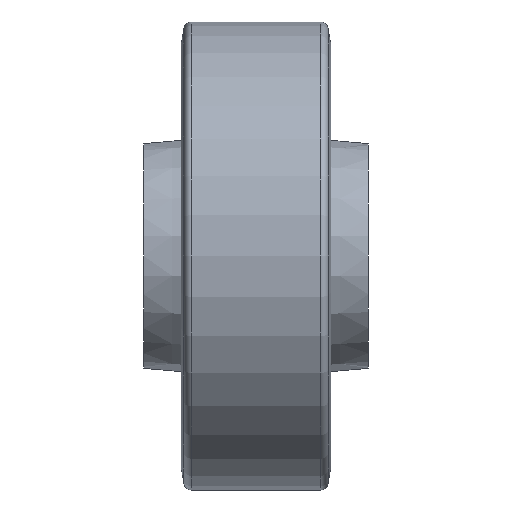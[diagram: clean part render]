
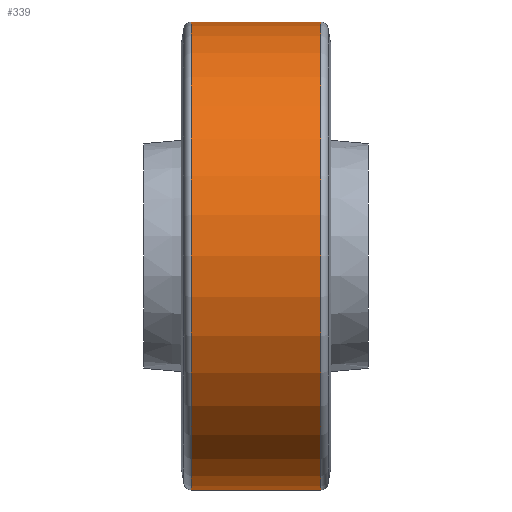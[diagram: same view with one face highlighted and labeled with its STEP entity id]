
A CAD part, front view. The second image highlights one B-rep face of the part: STEP entity #339.
In plain terms, the highlighted cylindrical face has radius 62.5 mm (diameter 125 mm), a partial arc.
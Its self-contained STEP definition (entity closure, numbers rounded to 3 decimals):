
#1 = AXIS2_PLACEMENT_3D ( 'NONE', #429, #914, #1027 ) ;
#23 = CIRCLE ( 'NONE', #101, 62.5 ) ;
#64 = VERTEX_POINT ( 'NONE', #1018 ) ;
#70 = ORIENTED_EDGE ( 'NONE', *, *, #488, .F. ) ;
#101 = AXIS2_PLACEMENT_3D ( 'NONE', #204, #677, #1263 ) ;
#186 = DIRECTION ( 'NONE',  ( -1., 0., 0. ) ) ;
#204 = CARTESIAN_POINT ( 'NONE',  ( -17.264, 0., 0. ) ) ;
#227 = CARTESIAN_POINT ( 'NONE',  ( -17.264, 0., 62.5 ) ) ;
#235 = VERTEX_POINT ( 'NONE', #227 ) ;
#247 = DIRECTION ( 'NONE',  ( 0., 0., 1. ) ) ;
#278 = FACE_OUTER_BOUND ( 'NONE', #385, .T. ) ;
#286 = LINE ( 'NONE', #640, #462 ) ;
#339 = ADVANCED_FACE ( 'NONE', ( #278 ), #737, .T. ) ;
#363 = VERTEX_POINT ( 'NONE', #890 ) ;
#382 = CARTESIAN_POINT ( 'NONE',  ( 0., 0., 62.5 ) ) ;
#385 = EDGE_LOOP ( 'NONE', ( #70, #1092, #829, #751 ) ) ;
#396 = AXIS2_PLACEMENT_3D ( 'NONE', #1436, #1293, #247 ) ;
#429 = CARTESIAN_POINT ( 'NONE',  ( 17.264, 0., 0. ) ) ;
#462 = VECTOR ( 'NONE', #186, 1000. ) ;
#485 = EDGE_CURVE ( 'NONE', #363, #235, #749, .T. ) ;
#488 = EDGE_CURVE ( 'NONE', #1081, #64, #286, .T. ) ;
#640 = CARTESIAN_POINT ( 'NONE',  ( 0., 0., -62.5 ) ) ;
#677 = DIRECTION ( 'NONE',  ( -1., 0., 0. ) ) ;
#737 = CYLINDRICAL_SURFACE ( 'NONE', #396, 62.5 ) ;
#749 = LINE ( 'NONE', #382, #1429 ) ;
#751 = ORIENTED_EDGE ( 'NONE', *, *, #1144, .F. ) ;
#814 = CIRCLE ( 'NONE', #1, 62.5 ) ;
#827 = CARTESIAN_POINT ( 'NONE',  ( 17.264, 0., -62.5 ) ) ;
#829 = ORIENTED_EDGE ( 'NONE', *, *, #485, .T. ) ;
#890 = CARTESIAN_POINT ( 'NONE',  ( 17.264, 0., 62.5 ) ) ;
#914 = DIRECTION ( 'NONE',  ( -1., 0., 0. ) ) ;
#1018 = CARTESIAN_POINT ( 'NONE',  ( -17.264, 0., -62.5 ) ) ;
#1027 = DIRECTION ( 'NONE',  ( 0., 0., 1. ) ) ;
#1081 = VERTEX_POINT ( 'NONE', #827 ) ;
#1092 = ORIENTED_EDGE ( 'NONE', *, *, #1239, .T. ) ;
#1144 = EDGE_CURVE ( 'NONE', #64, #235, #23, .T. ) ;
#1201 = DIRECTION ( 'NONE',  ( -1., 0., 0. ) ) ;
#1239 = EDGE_CURVE ( 'NONE', #1081, #363, #814, .T. ) ;
#1263 = DIRECTION ( 'NONE',  ( 0., 0., 1. ) ) ;
#1293 = DIRECTION ( 'NONE',  ( -1., 0., 0. ) ) ;
#1429 = VECTOR ( 'NONE', #1201, 1000. ) ;
#1436 = CARTESIAN_POINT ( 'NONE',  ( 0., 0., 0. ) ) ;
